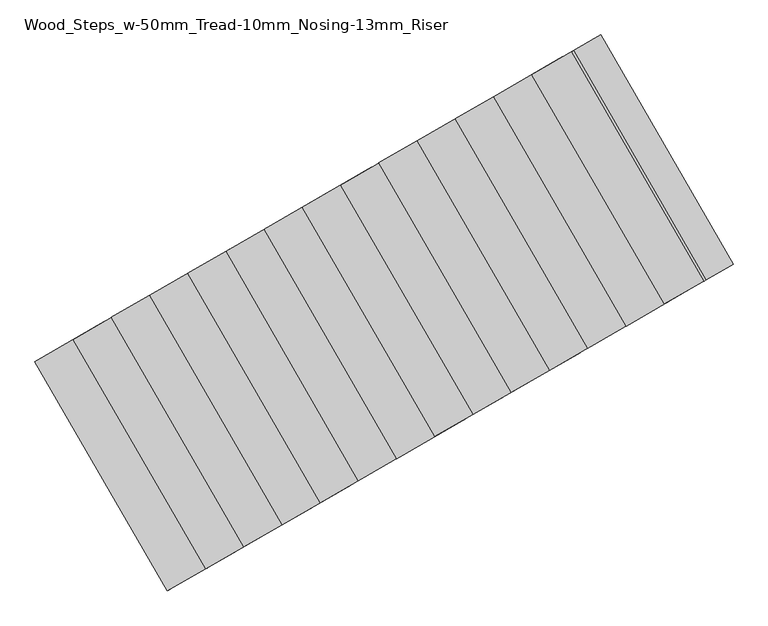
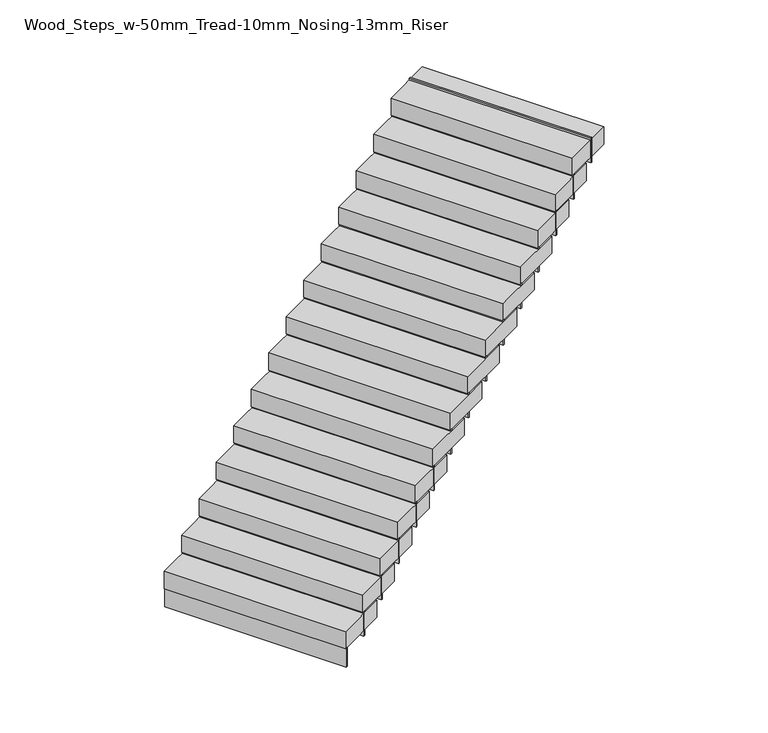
"""IFC4 building model written with IfcOpenShell, lengths in millimetres: stair flight geometry, Wood_Steps_w-50mm_Tread-10mm_Nosing-13mm_Riser."""

import ifcopenshell
import ifcopenshell.guid

model = None  # the IFC model being written
_history = None  # IfcOwnerHistory: only IFC2X3 demands one
_inside = {}  # id of a spatial element -> (the spatial element, [elements in it])
_under = {}  # id of a project, library or spatial element -> (it, [spatial elements below it])
_declared = {}  # id of a project -> (the project, [libraries it declares])
_typed = {}  # id of a type object -> (the type object, [elements of that type])
_made_of = {}  # id of a material, layer set ... -> (it, [elements and type objects made of it])


def new_model(schema):
    """Start an empty IFC model of exactly this schema.

    Asked for "IFC4X3", IfcOpenShell would pick the latest addendum, in which some entities
    have other attributes; the version numbers below select the first issue.
    IFC2X3 requires an IfcOwnerHistory on every rooted entity: one is made here for all.
    """
    global model, _history
    if schema == "IFC4X3":
        model = ifcopenshell.file(schema_version=(4, 3, 0, 0))
    else:
        model = ifcopenshell.file(schema=schema)
    _inside.clear()
    _under.clear()
    _declared.clear()
    _typed.clear()
    _made_of.clear()
    _history = None
    if model.schema == "IFC2X3":
        org = make("IfcOrganization", Name="unknown")
        user = make(
            "IfcPersonAndOrganization",
            ThePerson=make("IfcPerson", FamilyName="unknown"),
            TheOrganization=org,
        )
        app = make(
            "IfcApplication",
            ApplicationDeveloper=org,
            Version="unknown",
            ApplicationFullName="unknown",
            ApplicationIdentifier="unknown",
        )
        _history = make(
            "IfcOwnerHistory",
            OwningUser=user,
            OwningApplication=app,
            ChangeAction="ADDED",
            CreationDate=0,
        )
    return model


def make(cls, **values):
    """One entity of the class cls with the attributes given. An attribute that is None is left unset."""
    return model.create_entity(
        cls, **{name: value for name, value in values.items() if value is not None}
    )


def rooted(cls, **values):
    """An entity with a GlobalId (a new one), such as an element, a storey or a relation."""
    return make(cls, GlobalId=ifcopenshell.guid.new(), OwnerHistory=_history, **values)


def si_unit(unit_type, name, prefix=None):
    """IfcSIUnit, for example si_unit("LENGTHUNIT", "METRE", prefix="MILLI")."""
    return make("IfcSIUnit", UnitType=unit_type, Prefix=prefix, Name=name)


def assignment(units):
    """IfcUnitAssignment: the units of a project."""
    return None if units is None else make("IfcUnitAssignment", Units=units)


def point(xyz):
    """IfcCartesianPoint."""
    return None if xyz is None else make("IfcCartesianPoint", Coordinates=xyz)


def direction(xyz):
    """IfcDirection."""
    return None if xyz is None else make("IfcDirection", DirectionRatios=xyz)


def frame(location, z_axis=None, x_axis=None):
    """IfcAxis2Placement3D, a coordinate frame: its origin and axes. An axis left out is left unset."""
    return make(
        "IfcAxis2Placement3D",
        Location=point(location),
        Axis=direction(z_axis),
        RefDirection=direction(x_axis),
    )


def origin():
    """The frame at (0, 0, 0) with its axes left unset."""
    return frame((0.0, 0.0, 0.0))


def place(relative_to, where):
    """IfcLocalPlacement: puts the frame where relative to a parent placement (None: the world)."""
    return make(
        "IfcLocalPlacement", PlacementRelTo=relative_to, RelativePlacement=where
    )


def context(
    kind, dimensions, precision=None, world=None, true_north=None, identifier=None
):
    """IfcGeometricRepresentationContext, for example the 3D "Model" context."""
    return make(
        "IfcGeometricRepresentationContext",
        ContextIdentifier=identifier,
        ContextType=kind,
        CoordinateSpaceDimension=dimensions,
        Precision=precision,
        WorldCoordinateSystem=world,
        TrueNorth=true_north,
    )


def project(units=None, contexts=None):
    """IfcProject with its units and contexts."""
    return rooted(
        "IfcProject",
        Name="project",
        RepresentationContexts=contexts,
        UnitsInContext=assignment(units),
    )


def spatial(cls, under=None, at=None, **own):
    """A site, building, storey or space (cls), placed at a placement, below another one or the project."""
    s = rooted(cls, ObjectPlacement=at, **own)
    if under is not None:
        _under.setdefault(under.id(), (under, []))[1].append(s)
    return s


def polyline(points):
    """IfcPolyline through the points."""
    return make("IfcPolyline", Points=[point(p) for p in points])


def outline(outer, holes=None, kind="AREA"):
    """IfcArbitraryClosedProfileDef: a profile drawn as a closed curve; with holes, ...WithVoids."""
    if holes is None:
        return make("IfcArbitraryClosedProfileDef", ProfileType=kind, OuterCurve=outer)
    return make(
        "IfcArbitraryProfileDefWithVoids",
        ProfileType=kind,
        OuterCurve=outer,
        InnerCurves=holes,
    )


def extrude(swept, where, along, depth):
    """IfcExtrudedAreaSolid: the profile swept, set in the frame where, extruded along a direction by depth."""
    return make(
        "IfcExtrudedAreaSolid",
        SweptArea=swept,
        Position=where,
        ExtrudedDirection=direction(along),
        Depth=depth,
    )


def shape(context_of_items, identifier, shape_type, items):
    """IfcShapeRepresentation: the items that make up one representation, for example the "Body"."""
    return make(
        "IfcShapeRepresentation",
        ContextOfItems=context_of_items,
        RepresentationIdentifier=identifier,
        RepresentationType=shape_type,
        Items=items,
    )


def source(mapping_origin, context_of_items, identifier, shape_type, items):
    """IfcRepresentationMap: a shape defined once, which mapped items show again and again."""
    return make(
        "IfcRepresentationMap",
        MappingOrigin=mapping_origin,
        MappedRepresentation=shape(context_of_items, identifier, shape_type, items),
    )


def transform(
    local_origin,
    x_axis=None,
    y_axis=None,
    z_axis=None,
    scale=None,
    scale2=None,
    scale3=None,
    uniform=True,
):
    """IfcCartesianTransformationOperator3D, or its non-uniform kind. x_axis, y_axis, z_axis: its Axis1, 2, 3."""
    if uniform:
        return make(
            "IfcCartesianTransformationOperator3D",
            Axis1=direction(x_axis),
            Axis2=direction(y_axis),
            LocalOrigin=point(local_origin),
            Scale=scale,
            Axis3=direction(z_axis),
        )
    return make(
        "IfcCartesianTransformationOperator3DnonUniform",
        Axis1=direction(x_axis),
        Axis2=direction(y_axis),
        LocalOrigin=point(local_origin),
        Scale=scale,
        Axis3=direction(z_axis),
        Scale2=scale2,
        Scale3=scale3,
    )


def mapped(mapping_source, mapping_target):
    """IfcMappedItem: shows the shape of a source again, moved by a transform."""
    return make(
        "IfcMappedItem", MappingSource=mapping_source, MappingTarget=mapping_target
    )


def made_of(thing, what):
    """Note that an element or type object is made of a material, layer set ...; save() writes the relation."""
    if what is not None:
        _made_of.setdefault(what.id(), (what, []))[1].append(thing)
    return thing


def element(
    cls,
    number,
    at=None,
    inside=None,
    cuts=None,
    type_object=None,
    material=None,
    context=None,
    identifier="Body",
    shape_type=None,
    held_by="IfcProductDefinitionShape",
    body=None,
    shapes=None,
    **own,
):
    """One element of the class cls, such as IfcWall. Its Tag is "e" and its number.

    at: its placement. inside: the storey or other place that contains it. cuts: it is an
    opening in that element (IfcRelVoidsElement). A single representation is given by context,
    identifier, shape_type and body (its items); several are given by shapes. held_by: the class
    of the entity that holds the representations. save() writes the other relations.
    """
    e = rooted(cls, Tag="e%d" % number, ObjectPlacement=at, **own)
    if body is not None:
        shapes = [shape(context, identifier, shape_type, body)]
    if shapes is not None:
        e.Representation = make(held_by, Representations=shapes)
    if inside is not None:
        _inside.setdefault(inside.id(), (inside, []))[1].append(e)
    if cuts is not None:
        rooted(
            "IfcRelVoidsElement", RelatingBuildingElement=cuts, RelatedOpeningElement=e
        )
    if type_object is not None:
        _typed.setdefault(type_object.id(), (type_object, []))[1].append(e)
    return made_of(e, material)


def aggregate(whole, parts):
    """IfcRelAggregates: a whole, such as a stair, and the parts it consists of."""
    return rooted("IfcRelAggregates", RelatingObject=whole, RelatedObjects=parts)


def save(model, path):
    """Write the relations noted so far, then the file.

    IfcRelAggregates (storeys below a building ...), IfcRelContainedInSpatialStructure (elements
    in a storey), IfcRelDefinesByType, IfcRelAssociatesMaterial and IfcRelDeclares: one each for
    every whole, place, type object, material and project.
    """
    for whole, parts in _under.values():
        aggregate(whole, parts)
    for where, things in _inside.values():
        rooted(
            "IfcRelContainedInSpatialStructure",
            RelatedElements=things,
            RelatingStructure=where,
        )
    for kind, things in _typed.values():
        rooted("IfcRelDefinesByType", RelatedObjects=things, RelatingType=kind)
    for what, things in _made_of.values():
        rooted("IfcRelAssociatesMaterial", RelatedObjects=things, RelatingMaterial=what)
    for by, libraries in _declared.values():
        rooted("IfcRelDeclares", RelatingContext=by, RelatedDefinitions=libraries)
    model.write(path)


def wood_steps_w_50mm_tread_10mm_nosing_13mm_riser_1746afbe(model_context):
    return source(origin(), model_context, "Body", "SweptSolid", [
        extrude(outline(polyline([(7507.6500985, 22458.6335398), (7117.9386668, 22233.6335398), (6367.9386668, 23532.6716454), (6757.6500985, 23757.6716454), (7507.6500985, 22458.6335398)])), frame((0.0, 0.0, 6466.6666667), z_axis=(0.0, 0.0, 1.0), x_axis=(1.0, 0.0, 0.0)), (0.0, 0.0, 1.0), 150.0),
        extrude(outline(polyline([(7137.4242384, 22244.8835398), (7126.5989209, 22238.6335398), (6376.5989209, 23537.6716454), (6387.4242384, 23543.9216454), (7137.4242384, 22244.8835398)])), frame((0.0, 0.0, 6300.0), z_axis=(0.0, 0.0, 1.0), x_axis=(1.0, 0.0, 0.0)), (0.0, 0.0, 1.0), 166.6666667),
        extrude(outline(polyline([(7353.9305894, 22369.8835398), (7343.1052718, 22363.6335398), (6593.1052718, 23662.6716454), (6603.9305894, 23668.9216454), (7353.9305894, 22369.8835398)])), frame((0.0, 0.0, 6416.6666667), z_axis=(0.0, 0.0, 1.0), x_axis=(1.0, 0.0, 0.0)), (0.0, 0.0, 1.0), 216.6666667),
        extrude(outline(polyline([(7724.1564495, 22583.6335398), (7334.4450178, 22358.6335398), (6584.4450178, 23657.6716454), (6974.1564495, 23882.6716454), (7724.1564495, 22583.6335398)])), frame((0.0, 0.0, 6633.3333333), z_axis=(0.0, 0.0, 1.0), x_axis=(1.0, 0.0, 0.0)), (0.0, 0.0, 1.0), 150.0),
        extrude(outline(polyline([(7570.4369403, 22494.8835398), (7559.6116228, 22488.6335398), (6809.6116228, 23787.6716454), (6820.4369403, 23793.9216454), (7570.4369403, 22494.8835398)])), frame((0.0, 0.0, 6583.3333333), z_axis=(0.0, 0.0, 1.0), x_axis=(1.0, 0.0, 0.0)), (0.0, 0.0, 1.0), 216.6666667),
        extrude(outline(polyline([(7940.6628004, 22708.6335398), (7550.9513687, 22483.6335398), (6800.9513687, 23782.6716454), (7190.6628004, 24007.6716454), (7940.6628004, 22708.6335398)])), frame((0.0, 0.0, 6800.0), z_axis=(0.0, 0.0, 1.0), x_axis=(1.0, 0.0, 0.0)), (0.0, 0.0, 1.0), 150.0),
        extrude(outline(polyline([(7786.9432912, 22619.8835398), (7776.1179737, 22613.6335398), (7026.1179737, 23912.6716454), (7036.9432912, 23918.9216454), (7786.9432912, 22619.8835398)])), frame((0.0, 0.0, 6750.0), z_axis=(0.0, 0.0, 1.0), x_axis=(1.0, 0.0, 0.0)), (0.0, 0.0, 1.0), 216.6666667),
        extrude(outline(polyline([(8157.1691514, 22833.6335398), (7767.4577197, 22608.6335398), (7017.4577197, 23907.6716454), (7407.1691514, 24132.6716454), (8157.1691514, 22833.6335398)])), frame((0.0, 0.0, 6966.6666667), z_axis=(0.0, 0.0, 1.0), x_axis=(1.0, 0.0, 0.0)), (0.0, 0.0, 1.0), 150.0),
        extrude(outline(polyline([(8003.4496422, 22744.8835398), (7992.6243246, 22738.6335398), (7242.6243246, 24037.6716454), (7253.4496422, 24043.9216454), (8003.4496422, 22744.8835398)])), frame((0.0, 0.0, 6916.6666667), z_axis=(0.0, 0.0, 1.0), x_axis=(1.0, 0.0, 0.0)), (0.0, 0.0, 1.0), 216.6666667),
        extrude(outline(polyline([(8373.6755023, 22958.6335398), (7983.9640706, 22733.6335398), (7233.9640706, 24032.6716454), (7623.6755023, 24257.6716454), (8373.6755023, 22958.6335398)])), frame((0.0, 0.0, 7133.3333333), z_axis=(0.0, 0.0, 1.0), x_axis=(1.0, 0.0, 0.0)), (0.0, 0.0, 1.0), 150.0),
        extrude(outline(polyline([(8219.9559931, 22869.8835398), (8209.1306756, 22863.6335398), (7459.1306756, 24162.6716454), (7469.9559931, 24168.9216454), (8219.9559931, 22869.8835398)])), frame((0.0, 0.0, 7083.3333333), z_axis=(0.0, 0.0, 1.0), x_axis=(1.0, 0.0, 0.0)), (0.0, 0.0, 1.0), 216.6666667),
        extrude(outline(polyline([(8590.1818533, 23083.6335398), (8200.4704216, 22858.6335398), (7450.4704216, 24157.6716454), (7840.1818533, 24382.6716454), (8590.1818533, 23083.6335398)])), frame((0.0, 0.0, 7300.0), z_axis=(0.0, 0.0, 1.0), x_axis=(1.0, 0.0, 0.0)), (0.0, 0.0, 1.0), 150.0),
        extrude(outline(polyline([(8436.4623441, 22994.8835398), (8425.6370265, 22988.6335398), (7675.6370265, 24287.6716454), (7686.4623441, 24293.9216454), (8436.4623441, 22994.8835398)])), frame((0.0, 0.0, 7250.0), z_axis=(0.0, 0.0, 1.0), x_axis=(1.0, 0.0, 0.0)), (0.0, 0.0, 1.0), 216.6666667),
        extrude(outline(polyline([(8806.6882042, 23208.6335398), (8416.9767725, 22983.6335398), (7666.9767725, 24282.6716454), (8056.6882042, 24507.6716454), (8806.6882042, 23208.6335398)])), frame((0.0, 0.0, 7466.6666667), z_axis=(0.0, 0.0, 1.0), x_axis=(1.0, 0.0, 0.0)), (0.0, 0.0, 1.0), 150.0),
        extrude(outline(polyline([(8652.968695, 23119.8835398), (8642.1433775, 23113.6335398), (7892.1433775, 24412.6716454), (7902.968695, 24418.9216454), (8652.968695, 23119.8835398)])), frame((0.0, 0.0, 7416.6666667), z_axis=(0.0, 0.0, 1.0), x_axis=(1.0, 0.0, 0.0)), (0.0, 0.0, 1.0), 216.6666667),
        extrude(outline(polyline([(9023.1945551, 23333.6335398), (8633.4831234, 23108.6335398), (7883.4831234, 24407.6716454), (8273.1945551, 24632.6716454), (9023.1945551, 23333.6335398)])), frame((0.0, 0.0, 7633.3333333), z_axis=(0.0, 0.0, 1.0), x_axis=(1.0, 0.0, 0.0)), (0.0, 0.0, 1.0), 150.0),
        extrude(outline(polyline([(8869.475046, 23244.8835398), (8858.6497284, 23238.6335398), (8108.6497284, 24537.6716454), (8119.475046, 24543.9216454), (8869.475046, 23244.8835398)])), frame((0.0, 0.0, 7583.3333333), z_axis=(0.0, 0.0, 1.0), x_axis=(1.0, 0.0, 0.0)), (0.0, 0.0, 1.0), 216.6666667),
        extrude(outline(polyline([(9239.7009061, 23458.6335398), (8849.9894744, 23233.6335398), (8099.9894744, 24532.6716454), (8489.7009061, 24757.6716454), (9239.7009061, 23458.6335398)])), frame((0.0, 0.0, 7800.0), z_axis=(0.0, 0.0, 1.0), x_axis=(1.0, 0.0, 0.0)), (0.0, 0.0, 1.0), 150.0),
        extrude(outline(polyline([(9085.9813969, 23369.8835398), (9075.1560794, 23363.6335398), (8325.1560794, 24662.6716454), (8335.9813969, 24668.9216454), (9085.9813969, 23369.8835398)])), frame((0.0, 0.0, 7750.0), z_axis=(0.0, 0.0, 1.0), x_axis=(1.0, 0.0, 0.0)), (0.0, 0.0, 1.0), 216.6666667),
        extrude(outline(polyline([(9456.207257, 23583.6335398), (9066.4958253, 23358.6335398), (8316.4958253, 24657.6716454), (8706.207257, 24882.6716454), (9456.207257, 23583.6335398)])), frame((0.0, 0.0, 7966.6666667), z_axis=(0.0, 0.0, 1.0), x_axis=(1.0, 0.0, 0.0)), (0.0, 0.0, 1.0), 150.0),
        extrude(outline(polyline([(9302.4877479, 23494.8835398), (9291.6624303, 23488.6335398), (8541.6624303, 24787.6716454), (8552.4877479, 24793.9216454), (9302.4877479, 23494.8835398)])), frame((0.0, 0.0, 7916.6666667), z_axis=(0.0, 0.0, 1.0), x_axis=(1.0, 0.0, 0.0)), (0.0, 0.0, 1.0), 216.6666667),
        extrude(outline(polyline([(9672.713608, 23708.6335398), (9283.0021763, 23483.6335398), (8533.0021763, 24782.6716454), (8922.713608, 25007.6716454), (9672.713608, 23708.6335398)])), frame((0.0, 0.0, 8133.3333333), z_axis=(0.0, 0.0, 1.0), x_axis=(1.0, 0.0, 0.0)), (0.0, 0.0, 1.0), 150.0),
        extrude(outline(polyline([(9518.9940988, 23619.8835398), (9508.1687813, 23613.6335398), (8758.1687813, 24912.6716454), (8768.9940988, 24918.9216454), (9518.9940988, 23619.8835398)])), frame((0.0, 0.0, 8083.3333333), z_axis=(0.0, 0.0, 1.0), x_axis=(1.0, 0.0, 0.0)), (0.0, 0.0, 1.0), 216.6666667),
        extrude(outline(polyline([(9889.2199589, 23833.6335398), (9499.5085272, 23608.6335398), (8749.5085272, 24907.6716454), (9139.2199589, 25132.6716454), (9889.2199589, 23833.6335398)])), frame((0.0, 0.0, 8300.0), z_axis=(0.0, 0.0, 1.0), x_axis=(1.0, 0.0, 0.0)), (0.0, 0.0, 1.0), 150.0),
        extrude(outline(polyline([(9735.5004498, 23744.8835398), (9724.6751322, 23738.6335398), (8974.6751322, 25037.6716454), (8985.5004498, 25043.9216454), (9735.5004498, 23744.8835398)])), frame((0.0, 0.0, 8250.0), z_axis=(0.0, 0.0, 1.0), x_axis=(1.0, 0.0, 0.0)), (0.0, 0.0, 1.0), 216.6666667),
        extrude(outline(polyline([(10105.7263099, 23958.6335398), (9716.0148782, 23733.6335398), (8966.0148782, 25032.6716454), (9355.7263099, 25257.6716454), (10105.7263099, 23958.6335398)])), frame((0.0, 0.0, 8466.6666667), z_axis=(0.0, 0.0, 1.0), x_axis=(1.0, 0.0, 0.0)), (0.0, 0.0, 1.0), 150.0),
        extrude(outline(polyline([(9952.0068007, 23869.8835398), (9941.1814832, 23863.6335398), (9191.1814832, 25162.6716454), (9202.0068007, 25168.9216454), (9952.0068007, 23869.8835398)])), frame((0.0, 0.0, 8416.6666667), z_axis=(0.0, 0.0, 1.0), x_axis=(1.0, 0.0, 0.0)), (0.0, 0.0, 1.0), 216.6666667),
        extrude(outline(polyline([(10168.5131517, 23994.8835398), (10157.6878341, 23988.6335398), (9407.6878341, 25287.6716454), (9418.5131517, 25293.9216454), (10168.5131517, 23994.8835398)])), frame((0.0, 0.0, 8583.3333333), z_axis=(0.0, 0.0, 1.0), x_axis=(1.0, 0.0, 0.0)), (0.0, 0.0, 1.0), 216.6666667),
        extrude(outline(polyline([(10322.2326608, 24083.6335398), (9932.5212291, 23858.6335398), (9182.5212291, 25157.6716454), (9572.2326608, 25382.6716454), (10322.2326608, 24083.6335398)])), frame((0.0, 0.0, 8633.3333333), z_axis=(0.0, 0.0, 1.0), x_axis=(1.0, 0.0, 0.0)), (0.0, 0.0, 1.0), 150.0),
    ])


if __name__ == "__main__":
    model = new_model("IFC4")
    model_context = context("Model", 3, world=origin())
    ifc_project = project(units=[si_unit("LENGTHUNIT", "METRE", prefix="MILLI")], contexts=[model_context])
    site = spatial("IfcSite", under=ifc_project)
    building = spatial("IfcBuilding", under=site)
    placement = place(None, origin())
    wood_steps_w_50mm_tread_10mm_nosing_13mm_riser_shape = wood_steps_w_50mm_tread_10mm_nosing_13mm_riser_1746afbe(model_context)
    element("IfcStairFlight", 1, ObjectType="Wood_Steps_w-50mm_Tread-10mm_Nosing-13mm_Riser", at=placement, inside=building, context=model_context, shape_type="MappedRepresentation", body=[
        mapped(wood_steps_w_50mm_tread_10mm_nosing_13mm_riser_shape, transform((0.0, 0.0, 0.0), x_axis=(1.0, 0.0, 0.0), y_axis=(0.0, 1.0, 0.0), z_axis=(0.0, 0.0, 1.0))),
    ])
    save(model, "model.ifc")
